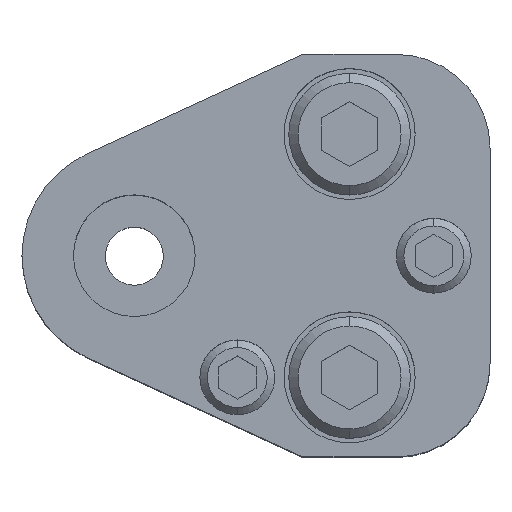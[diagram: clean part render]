
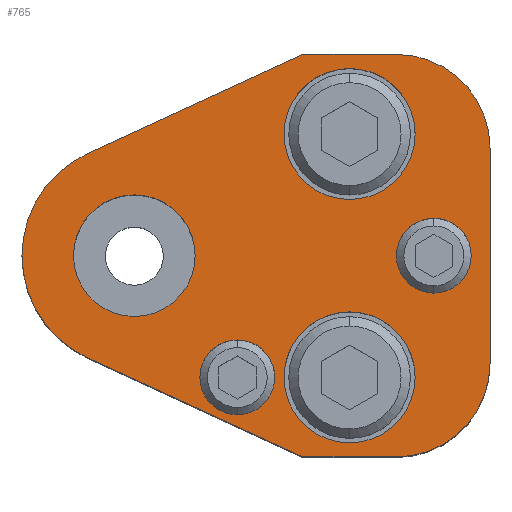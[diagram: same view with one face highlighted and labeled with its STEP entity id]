
A CAD part, top view. The second image highlights one B-rep face of the part: STEP entity #765.
In plain terms, the highlighted planar face has unit normal (0, 0, 1).
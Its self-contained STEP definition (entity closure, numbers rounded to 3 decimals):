
#144=FACE_BOUND('',#1151,.T.);
#145=FACE_BOUND('',#1152,.T.);
#146=FACE_BOUND('',#1153,.T.);
#147=FACE_BOUND('',#1154,.T.);
#148=FACE_BOUND('',#1155,.T.);
#149=FACE_BOUND('',#1156,.T.);
#352=LINE('',#4212,#556);
#357=LINE('',#4227,#561);
#360=LINE('',#4233,#564);
#365=LINE('',#4246,#569);
#377=LINE('',#4305,#581);
#384=LINE('',#4326,#588);
#556=VECTOR('',#3390,1.);
#561=VECTOR('',#3403,1.);
#564=VECTOR('',#3408,1.);
#569=VECTOR('',#3421,1.);
#581=VECTOR('',#3487,1.);
#588=VECTOR('',#3506,1.);
#765=ADVANCED_FACE('',(#144,#145,#146,#147,#148,#149),#863,.T.);
#863=PLANE('',#2873);
#1151=EDGE_LOOP('',(#1689,#1690,#1691,#1692,#1693,#1694,#1695,#1696,#1697));
#1152=EDGE_LOOP('',(#1698,#1699));
#1153=EDGE_LOOP('',(#1700,#1701));
#1154=EDGE_LOOP('',(#1702,#1703));
#1155=EDGE_LOOP('',(#1704,#1705));
#1156=EDGE_LOOP('',(#1706,#1707));
#1689=ORIENTED_EDGE('',*,*,#2341,.T.);
#1690=ORIENTED_EDGE('',*,*,#2345,.T.);
#1691=ORIENTED_EDGE('',*,*,#2348,.T.);
#1692=ORIENTED_EDGE('',*,*,#2386,.T.);
#1693=ORIENTED_EDGE('',*,*,#2400,.T.);
#1694=ORIENTED_EDGE('',*,*,#2397,.T.);
#1695=ORIENTED_EDGE('',*,*,#2351,.T.);
#1696=ORIENTED_EDGE('',*,*,#2355,.T.);
#1697=ORIENTED_EDGE('',*,*,#2358,.T.);
#1698=ORIENTED_EDGE('',*,*,#2404,.F.);
#1699=ORIENTED_EDGE('',*,*,#2405,.F.);
#1700=ORIENTED_EDGE('',*,*,#2406,.F.);
#1701=ORIENTED_EDGE('',*,*,#2407,.F.);
#1702=ORIENTED_EDGE('',*,*,#2381,.F.);
#1703=ORIENTED_EDGE('',*,*,#2377,.F.);
#1704=ORIENTED_EDGE('',*,*,#2375,.F.);
#1705=ORIENTED_EDGE('',*,*,#2371,.F.);
#1706=ORIENTED_EDGE('',*,*,#2408,.T.);
#1707=ORIENTED_EDGE('',*,*,#2409,.T.);
#2045=VERTEX_POINT('',#4211);
#2046=VERTEX_POINT('',#4213);
#2049=VERTEX_POINT('',#4220);
#2051=VERTEX_POINT('',#4226);
#2053=VERTEX_POINT('',#4232);
#2054=VERTEX_POINT('',#4234);
#2057=VERTEX_POINT('',#4241);
#2066=VERTEX_POINT('',#4273);
#2067=VERTEX_POINT('',#4274);
#2070=VERTEX_POINT('',#4286);
#2071=VERTEX_POINT('',#4287);
#2077=VERTEX_POINT('',#4304);
#2086=VERTEX_POINT('',#4327);
#2089=VERTEX_POINT('',#4345);
#2090=VERTEX_POINT('',#4346);
#2091=VERTEX_POINT('',#4349);
#2092=VERTEX_POINT('',#4350);
#2093=VERTEX_POINT('',#4353);
#2094=VERTEX_POINT('',#4354);
#2341=EDGE_CURVE('',#2046,#2045,#352,.T.);
#2345=EDGE_CURVE('',#2045,#2049,#2589,.T.);
#2348=EDGE_CURVE('',#2049,#2051,#357,.T.);
#2351=EDGE_CURVE('',#2054,#2053,#360,.T.);
#2355=EDGE_CURVE('',#2053,#2057,#2591,.T.);
#2358=EDGE_CURVE('',#2057,#2046,#365,.T.);
#2371=EDGE_CURVE('',#2066,#2067,#2601,.T.);
#2375=EDGE_CURVE('',#2067,#2066,#2603,.T.);
#2377=EDGE_CURVE('',#2070,#2071,#2605,.T.);
#2381=EDGE_CURVE('',#2071,#2070,#2607,.T.);
#2386=EDGE_CURVE('',#2051,#2077,#377,.T.);
#2397=EDGE_CURVE('',#2086,#2054,#384,.T.);
#2400=EDGE_CURVE('',#2077,#2086,#2614,.T.);
#2404=EDGE_CURVE('',#2089,#2090,#2615,.T.);
#2405=EDGE_CURVE('',#2090,#2089,#2616,.T.);
#2406=EDGE_CURVE('',#2091,#2092,#2617,.T.);
#2407=EDGE_CURVE('',#2092,#2091,#2618,.T.);
#2408=EDGE_CURVE('',#2093,#2094,#2619,.T.);
#2409=EDGE_CURVE('',#2094,#2093,#2620,.T.);
#2589=CIRCLE('',#2821,10.);
#2591=CIRCLE('',#2826,10.);
#2601=CIRCLE('',#2842,7.);
#2603=CIRCLE('',#2845,7.);
#2605=CIRCLE('',#2849,7.);
#2607=CIRCLE('',#2852,7.);
#2614=CIRCLE('',#2864,12.);
#2615=CIRCLE('',#2867,4.);
#2616=CIRCLE('',#2868,4.);
#2617=CIRCLE('',#2869,4.);
#2618=CIRCLE('',#2870,4.);
#2619=CIRCLE('',#2871,6.5);
#2620=CIRCLE('',#2872,6.5);
#2821=AXIS2_PLACEMENT_3D('',#4221,#3396,#3397);
#2826=AXIS2_PLACEMENT_3D('',#4242,#3414,#3415);
#2842=AXIS2_PLACEMENT_3D('',#4272,#3452,#3453);
#2845=AXIS2_PLACEMENT_3D('',#4281,#3460,#3461);
#2849=AXIS2_PLACEMENT_3D('',#4285,#3468,#3469);
#2852=AXIS2_PLACEMENT_3D('',#4294,#3476,#3477);
#2864=AXIS2_PLACEMENT_3D('',#4331,#3512,#3513);
#2867=AXIS2_PLACEMENT_3D('',#4344,#3520,#3521);
#2868=AXIS2_PLACEMENT_3D('',#4347,#3522,#3523);
#2869=AXIS2_PLACEMENT_3D('',#4348,#3524,#3525);
#2870=AXIS2_PLACEMENT_3D('',#4351,#3526,#3527);
#2871=AXIS2_PLACEMENT_3D('',#4352,#3528,#3529);
#2872=AXIS2_PLACEMENT_3D('',#4355,#3530,#3531);
#2873=AXIS2_PLACEMENT_3D('',#4356,#3532,#3533);
#3390=DIRECTION('',(0.,1.,0.));
#3396=DIRECTION('',(0.,0.,1.));
#3397=DIRECTION('',(-0.707,-0.707,0.));
#3403=DIRECTION('',(-1.,0.,0.));
#3408=DIRECTION('',(1.,0.,0.));
#3414=DIRECTION('',(0.,0.,1.));
#3415=DIRECTION('',(-0.707,0.707,0.));
#3421=DIRECTION('',(0.,1.,0.));
#3452=DIRECTION('',(0.,0.,1.));
#3453=DIRECTION('',(-1.,0.,0.));
#3460=DIRECTION('',(0.,0.,1.));
#3461=DIRECTION('',(1.,0.,0.));
#3468=DIRECTION('',(0.,0.,1.));
#3469=DIRECTION('',(-1.,0.,0.));
#3476=DIRECTION('',(0.,0.,1.));
#3477=DIRECTION('',(1.,0.,0.));
#3487=DIRECTION('',(-0.908,-0.418,0.));
#3506=DIRECTION('',(0.908,-0.418,0.));
#3512=DIRECTION('',(0.,0.,1.));
#3513=DIRECTION('',(1.,0.,0.));
#3520=DIRECTION('',(0.,0.,1.));
#3521=DIRECTION('',(1.,0.,0.));
#3522=DIRECTION('',(0.,0.,1.));
#3523=DIRECTION('',(-1.,0.,0.));
#3524=DIRECTION('',(0.,0.,1.));
#3525=DIRECTION('',(1.,0.,0.));
#3526=DIRECTION('',(0.,0.,1.));
#3527=DIRECTION('',(-1.,0.,0.));
#3528=DIRECTION('',(0.,0.,-1.));
#3529=DIRECTION('',(-1.,0.,0.));
#3530=DIRECTION('',(0.,0.,-1.));
#3531=DIRECTION('',(1.,0.,0.));
#3532=DIRECTION('',(0.,0.,1.));
#3533=DIRECTION('',(0.,-1.,0.));
#4211=CARTESIAN_POINT('',(38.,11.5,40.));
#4212=CARTESIAN_POINT('',(38.,11.5,40.));
#4213=CARTESIAN_POINT('',(38.,0.,40.));
#4220=CARTESIAN_POINT('',(28.,21.5,40.));
#4221=CARTESIAN_POINT('',(28.,11.5,40.));
#4226=CARTESIAN_POINT('',(18.,21.5,40.));
#4227=CARTESIAN_POINT('',(18.,21.5,40.));
#4232=CARTESIAN_POINT('',(28.,-21.5,40.));
#4233=CARTESIAN_POINT('',(18.,-21.5,40.));
#4234=CARTESIAN_POINT('',(18.,-21.5,40.));
#4241=CARTESIAN_POINT('',(38.,-11.5,40.));
#4242=CARTESIAN_POINT('',(28.,-11.5,40.));
#4246=CARTESIAN_POINT('',(38.,-11.5,40.));
#4272=CARTESIAN_POINT('',(23.,-13.,40.));
#4273=CARTESIAN_POINT('',(23.,-20.,40.));
#4274=CARTESIAN_POINT('',(23.,-6.,40.));
#4281=CARTESIAN_POINT('',(23.,-13.,40.));
#4285=CARTESIAN_POINT('',(23.,13.,40.));
#4286=CARTESIAN_POINT('',(23.,6.,40.));
#4287=CARTESIAN_POINT('',(23.,20.,40.));
#4294=CARTESIAN_POINT('',(23.,13.,40.));
#4304=CARTESIAN_POINT('',(-5.019,10.9,40.));
#4305=CARTESIAN_POINT('',(18.,21.5,40.));
#4326=CARTESIAN_POINT('',(18.,-21.5,40.));
#4327=CARTESIAN_POINT('',(-5.019,-10.9,40.));
#4331=CARTESIAN_POINT('',(0.,0.,40.));
#4344=CARTESIAN_POINT('',(32.,0.,40.));
#4345=CARTESIAN_POINT('',(32.,4.,40.));
#4346=CARTESIAN_POINT('',(32.,-4.,40.));
#4347=CARTESIAN_POINT('',(32.,0.,40.));
#4348=CARTESIAN_POINT('',(11.,-13.,40.));
#4349=CARTESIAN_POINT('',(11.,-9.,40.));
#4350=CARTESIAN_POINT('',(11.,-17.,40.));
#4351=CARTESIAN_POINT('',(11.,-13.,40.));
#4352=CARTESIAN_POINT('',(0.,0.,40.));
#4353=CARTESIAN_POINT('',(0.,6.5,40.));
#4354=CARTESIAN_POINT('',(0.,-6.5,40.));
#4355=CARTESIAN_POINT('',(0.,0.,40.));
#4356=CARTESIAN_POINT('',(38.,0.,40.));
